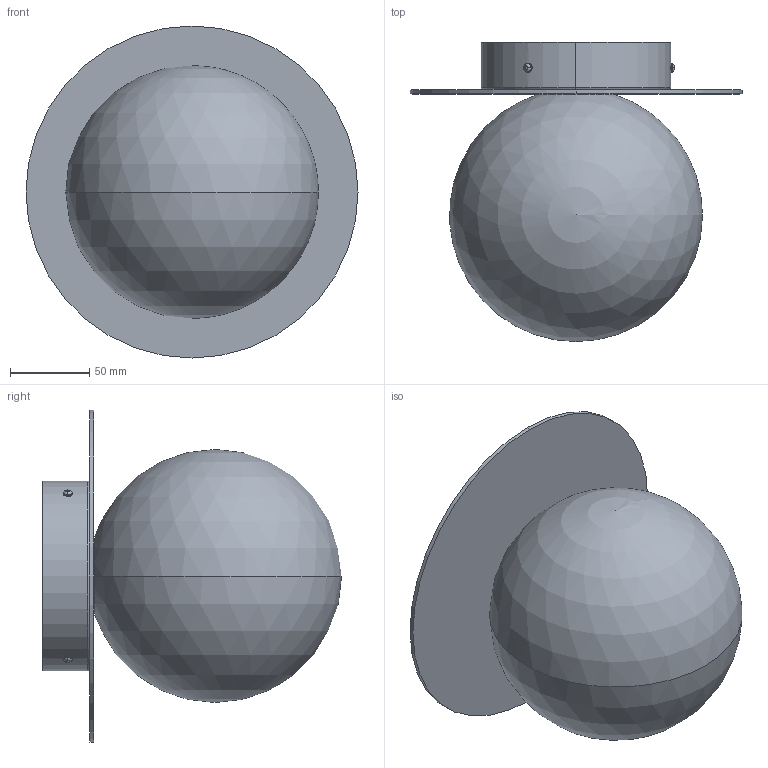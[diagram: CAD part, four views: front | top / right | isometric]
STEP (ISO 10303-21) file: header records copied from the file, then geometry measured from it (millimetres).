
FILE_DESCRIPTION (( 'STEP AP203' ), '1' );
FILE_NAME ('UPKI1601XXXXXXX-PER 3D.STEP', '2026-07-07T16:49:21', ( '' ), ( '' ), 'SwSTEP 2.0', 'SolidWorks 2026', '' );
FILE_SCHEMA (( 'CONFIG_CONTROL_DESIGN' ));
Length unit declared in the file: millimetre
Products named in the file (7): Rondella_M3_Dentellata Interna; ISO7380_M3_H08; WSCM2C0262-1200-01; WSVAXXX0160BC7XX01; WSCM2C0200-0700-03_WSCM2C0200-0700-03; WSCM2F0039-0100-00; UPKI1601XXXXXXX-PER 3D
Assembly tree (10 placements, depth 2):
  UPKI1601XXXXXXX-PER 3D
    WSCM2C0200-0700-03_WSCM2C0200-0700-03
    WSVAXXX0160BC7XX01
    WSCM2F0039-0100-00
    WSCM2C0262-1200-01
    Rondella_M3_Dentellata Interna  x3
    ISO7380_M3_H08  x3
Bounding box: 210 x 189.12 x 210 mm (x, y, z)
Volume: 352548.2 mm3; surface area: 290617.8 mm2
Topology: 10 solids, 10 shells, 374 faces, 992 edges, 642 vertices
Faces by surface type: bspline 144, cylinder 97, plane 97, cone 22, sphere 10, torus 4
Entity records: 8805 total; most frequent: CARTESIAN_POINT 2453, ORIENTED_EDGE 1188, DIRECTION 1054, EDGE_CURVE 594, VERTEX_POINT 380, AXIS2_PLACEMENT_3D 377, LINE 300, VECTOR 300
